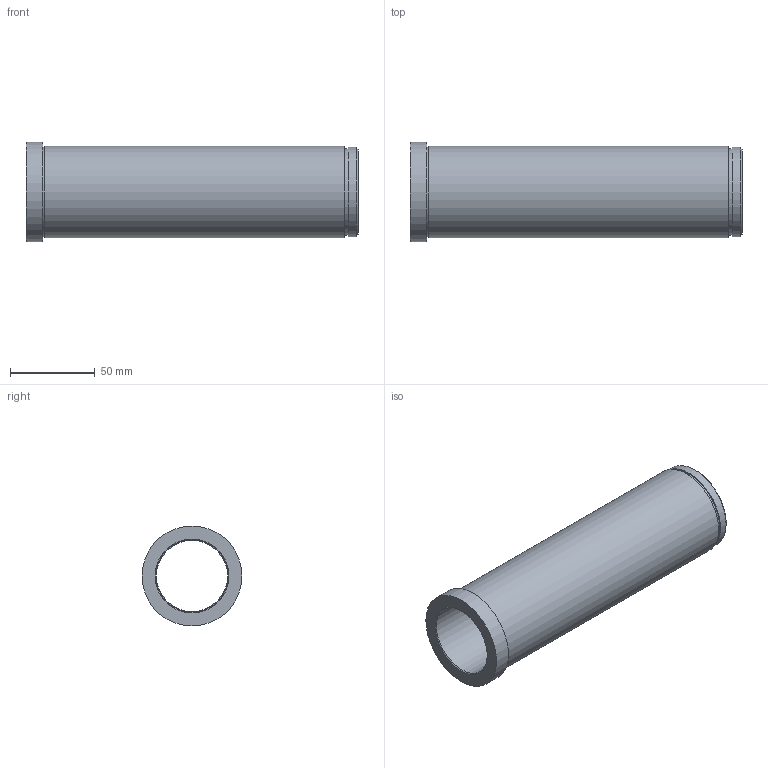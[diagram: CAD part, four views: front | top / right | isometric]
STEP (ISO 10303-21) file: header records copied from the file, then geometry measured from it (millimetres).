
FILE_DESCRIPTION(/* description */ ('Impex Ready, www.impex-ready.pl'),/* implementation_level */ '2;1');
FILE_NAME(/* name */ 'C:\Users\VIKKY\Nextcloud\SM\projekt 10 - części na stronę internetową\Pliki_3D_new\307 Tuleje BG05\307 BG05_STEP\BG05.042196.ipt.step',/* time_stamp */ '2021-12-21T17:24:49+01:00',/* author */ ('SM'),/* organization */ (''),/* preprocessor_version */ 'ST-DEVELOPER v18.1',/* originating_system */ 'Autodesk Inventor 2021',/* authorisation */ '');
FILE_SCHEMA (('AUTOMOTIVE_DESIGN { 1 0 10303 214 3 1 1 }'));
Length unit declared in the file: millimetre
Products named in the file (1): BG05.042196
Bounding box: 196 x 59 x 59 mm (x, y, z)
Volume: 176622.8 mm3; surface area: 62332.8 mm2
Topology: 1 solids, 1 shells, 17 faces, 30 edges, 20 vertices
Faces by surface type: plane 7, cylinder 7, cone 3
Full cylindrical faces by diameter (mm): 42 x1, 42.5 x1, 51 x1, 52.6 x1, 53 x1, 54 x1, 59 x1
Entity records: 504 total; most frequent: DIRECTION 86, CARTESIAN_POINT 68, ORIENTED_EDGE 60, AXIS2_PLACEMENT_3D 38, EDGE_CURVE 30, EDGE_LOOP 24, CIRCLE 20, VERTEX_POINT 20
